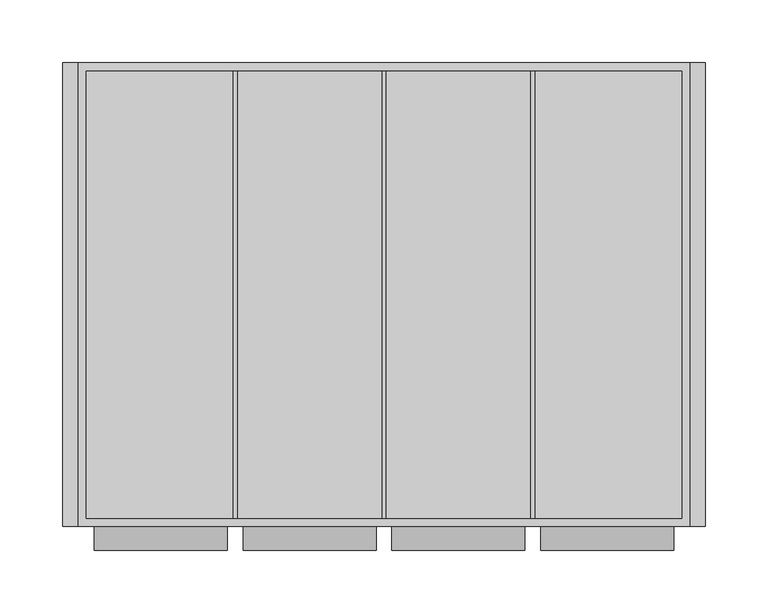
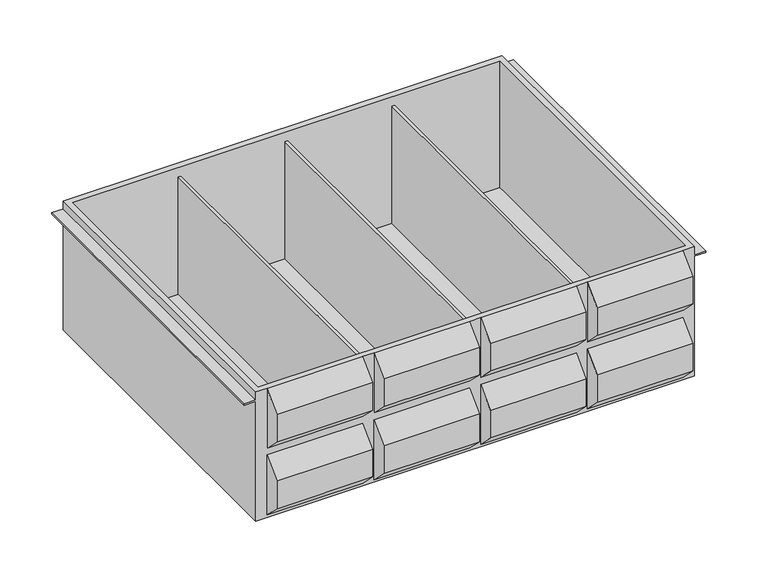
"""IFC4 building model written with IfcOpenShell, lengths in millimetres: furniture geometry, HermanMiller_CoStruc_CO565_Cassette Assembly : 6H x 15D x 20W."""

from ifc_helpers import new_model, si_unit, origin, place, context, project, spatial, faceted_brep, source, transform, mapped, element, save


def furniture_c38e6d16(model_context):
    return source(origin(), model_context, "Body", "Brep", [
        faceted_brep([(-238.125, -176.2125, 1230.2109), (-250.825, -176.2125, 1230.2109), (-250.825, -176.2125, 1220.6986), (-263.525, -176.2125, 1220.6986), (-263.525, -176.2125, 1219.1111), (-250.825, -176.2125, 1219.1111), (-250.825, -176.2125, 1077.8109), (238.125, -176.2125, 1077.8109), (238.125, -176.2125, 1219.1111), (250.825, -176.2125, 1219.1111), (250.825, -176.2125, 1220.6986), (238.125, -176.2125, 1220.6986), (238.125, -176.2125, 1230.2109), (225.425, -176.2125, 1230.2109), (225.425, -176.2125, 1159.6226237), (119.0625, -176.2125, 1159.6226237), (119.0625, -176.2125, 1230.2109), (106.3625, -176.2125, 1230.2109), (106.3625, -176.2125, 1159.6226237), (0.0, -176.2125, 1159.6226237), (0.0, -176.2125, 1230.2109), (-12.7, -176.2125, 1230.2109), (-12.7, -176.2125, 1159.6226237), (-119.0625, -176.2125, 1159.6226237), (-119.0625, -176.2125, 1230.2109), (-131.7625, -176.2125, 1230.2109), (-131.7625, -176.2125, 1159.6226237), (-238.125, -176.2125, 1159.6226237), (-131.7625, -176.2125, 1151.4253481), (-131.7625, -176.2125, 1080.8370719), (-238.125, -176.2125, 1080.8370719), (-238.125, -176.2125, 1151.4253481), (-119.0625, -176.2125, 1080.8370719), (-119.0625, -176.2125, 1151.4253481), (-12.7, -176.2125, 1151.4253481), (-12.7, -176.2125, 1080.8370719), (106.3625, -176.2125, 1151.4253481), (106.3625, -176.2125, 1080.8370719), (0.0, -176.2125, 1080.8370719), (0.0, -176.2125, 1151.4253481), (119.0625, -176.2125, 1080.8370719), (119.0625, -176.2125, 1151.4253481), (225.425, -176.2125, 1151.4253481), (225.425, -176.2125, 1080.8370719), (-250.825, 195.2625, 1230.2109), (238.125, 195.2625, 1230.2109), (238.125, 195.2625, 1220.6986), (250.825, 195.2625, 1220.6986), (250.825, 195.2625, 1219.1111), (238.125, 195.2625, 1219.1111), (238.125, 195.2625, 1077.8109), (-250.825, 195.2625, 1077.8109), (-250.825, 195.2625, 1219.1111), (-263.525, 195.2625, 1219.1111), (-263.525, 195.2625, 1220.6986), (-250.825, 195.2625, 1220.6986), (231.775, -169.8625, 1230.2109), (-244.475, -169.8625, 1230.2109), (-244.475, 188.2775, 1230.2109), (231.775, 188.2775, 1230.2109), (-131.7625, -195.2625, 1099.8870719), (-131.7625, -195.2625, 1132.3753481), (-131.7625, -195.2625, 1211.1609), (-131.7625, -195.2625, 1178.6726237), (-238.125, -195.2625, 1099.8870719), (-238.125, -195.2625, 1132.3753481), (-238.125, -195.2625, 1178.6726237), (-238.125, -195.2625, 1211.1609), (231.775, -169.8625, 1080.8370719), (231.775, 188.2775, 1080.8370719), (114.3, 188.2775, 1080.8370719), (114.3, -169.8625, 1080.8370719), (-244.475, 188.2775, 1080.8370719), (-244.475, -169.8625, 1080.8370719), (-127.0, -169.8625, 1080.8370719), (-127.0, 188.2775, 1080.8370719), (-4.7625, -169.8625, 1080.8370719), (111.125, -169.8625, 1080.8370719), (111.125, 188.2775, 1080.8370719), (-4.7625, 188.2775, 1080.8370719), (-123.825, -169.8625, 1080.8370719), (-7.9375, -169.8625, 1080.8370719), (-7.9375, 188.2775, 1080.8370719), (-123.825, 188.2775, 1080.8370719), (114.3, -169.8625, 1219.1111), (111.125, -169.8625, 1219.1111), (-4.7625, -169.8625, 1219.1111), (-7.9375, -169.8625, 1219.1111), (-123.825, -169.8625, 1219.1111), (-127.0, -169.8625, 1219.1111), (-127.0, 188.2775, 1219.1111), (-123.825, 188.2775, 1219.1111), (-7.9375, 188.2775, 1219.1111), (-4.7625, 188.2775, 1219.1111), (111.125, 188.2775, 1219.1111), (114.3, 188.2775, 1219.1111), (-119.0625, -195.2625, 1099.8870719), (-119.0625, -195.2625, 1132.3753481), (-119.0625, -195.2625, 1178.6726237), (-119.0625, -195.2625, 1211.1609), (-12.7, -195.2625, 1099.8870719), (-12.7, -195.2625, 1132.3753481), (-12.7, -195.2625, 1211.1609), (-12.7, -195.2625, 1178.6726237), (106.3625, -195.2625, 1099.8870719), (106.3625, -195.2625, 1132.3753481), (106.3625, -195.2625, 1211.1609), (106.3625, -195.2625, 1178.6726237), (0.0, -195.2625, 1099.8870719), (0.0, -195.2625, 1132.3753481), (0.0, -195.2625, 1178.6726237), (0.0, -195.2625, 1211.1609), (119.0625, -195.2625, 1099.8870719), (119.0625, -195.2625, 1132.3753481), (119.0625, -195.2625, 1178.6726237), (119.0625, -195.2625, 1211.1609), (225.425, -195.2625, 1099.8870719), (225.425, -195.2625, 1132.3753481), (225.425, -195.2625, 1211.1609), (225.425, -195.2625, 1178.6726237)], [[[0, 1, 2, 3, 4, 5, 6, 7, 8, 9, 10, 11, 12, 13, 14, 15, 16, 17, 18, 19, 20, 21, 22, 23, 24, 25, 26, 27], [28, 29, 30, 31], [32, 33, 34, 35], [36, 37, 38, 39], [40, 41, 42, 43]], [[44, 45, 46, 47, 48, 49, 50, 51, 52, 53, 54, 55]], [[51, 50, 7, 6]], [[7, 50, 49, 8]], [[45, 12, 11, 46]], [[45, 44, 1, 0, 25, 24, 21, 20, 17, 16, 13, 12], [56, 57, 58, 59]], [[51, 6, 5, 52]], [[1, 44, 55, 2]], [[60, 29, 28, 61]], [[25, 62, 63, 26]], [[64, 65, 31, 30]], [[27, 66, 67, 0]], [[29, 60, 64, 30]], [[62, 25, 0, 67]], [[63, 62, 67, 66]], [[26, 63, 66, 27]], [[61, 28, 31, 65]], [[60, 61, 65, 64]], [[68, 69, 70, 71]], [[72, 73, 74, 75]], [[76, 77, 78, 79]], [[80, 81, 82, 83]], [[56, 68, 71, 84, 85, 77, 76, 86, 87, 81, 80, 88, 89, 74, 73, 57]], [[69, 68, 56, 59]], [[69, 59, 58, 72, 75, 90, 91, 83, 82, 92, 93, 79, 78, 94, 95, 70]], [[73, 72, 58, 57]], [[96, 97, 33, 32]], [[23, 98, 99, 24]], [[100, 35, 34, 101]], [[21, 102, 103, 22]], [[97, 96, 100, 101]], [[33, 97, 101, 34]], [[98, 23, 22, 103]], [[99, 98, 103, 102]], [[24, 99, 102, 21]], [[96, 32, 35, 100]], [[104, 37, 36, 105]], [[17, 106, 107, 18]], [[108, 109, 39, 38]], [[19, 110, 111, 20]], [[37, 104, 108, 38]], [[106, 17, 20, 111]], [[107, 106, 111, 110]], [[18, 107, 110, 19]], [[105, 36, 39, 109]], [[104, 105, 109, 108]], [[112, 113, 41, 40]], [[15, 114, 115, 16]], [[116, 43, 42, 117]], [[13, 118, 119, 14]], [[113, 112, 116, 117]], [[41, 113, 117, 42]], [[114, 15, 14, 119]], [[115, 114, 119, 118]], [[16, 115, 118, 13]], [[112, 40, 43, 116]], [[54, 53, 4, 3]], [[55, 54, 3, 2]], [[53, 52, 5, 4]], [[49, 48, 9, 8]], [[47, 46, 11, 10]], [[48, 47, 10, 9]], [[88, 91, 90, 89]], [[84, 95, 94, 85]], [[86, 93, 92, 87]], [[91, 88, 80, 83]], [[89, 90, 75, 74]], [[95, 84, 71, 70]], [[85, 94, 78, 77]], [[93, 86, 76, 79]], [[87, 92, 82, 81]]]),
    ])


if __name__ == "__main__":
    model = new_model("IFC4")
    model_context = context("Model", 3, world=origin())
    ifc_project = project(units=[si_unit("LENGTHUNIT", "METRE", prefix="MILLI")], contexts=[model_context])
    site = spatial("IfcSite", under=ifc_project)
    building = spatial("IfcBuilding", under=site)
    placement = place(None, origin())
    furniture_shape = furniture_c38e6d16(model_context)
    element("IfcFurniture", 1, ObjectType="HermanMiller_CoStruc_CO565_Cassette Assembly : 6H x 15D x 20W", at=placement, inside=building, context=model_context, shape_type="MappedRepresentation", body=[
        mapped(furniture_shape, transform((0.0, 0.0, 0.0), x_axis=(1.0, 0.0, 0.0), y_axis=(0.0, 1.0, 0.0), z_axis=(0.0, 0.0, 1.0))),
    ])
    save(model, "model.ifc")
